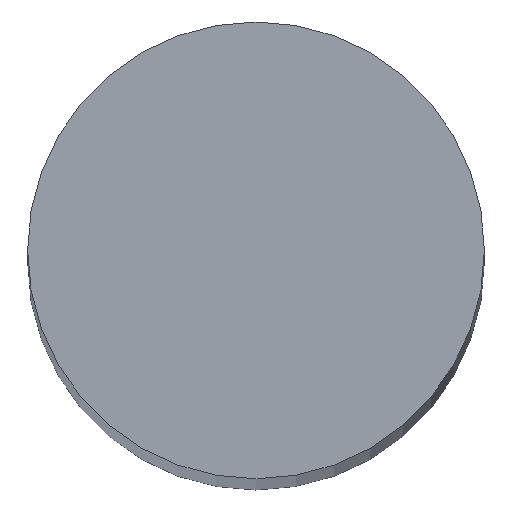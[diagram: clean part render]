
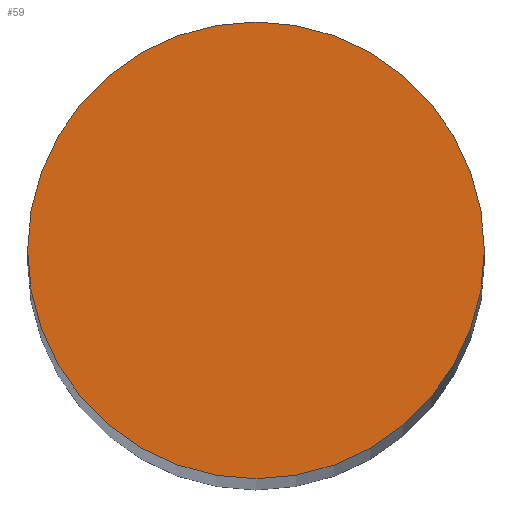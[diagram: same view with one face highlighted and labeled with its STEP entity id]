
A CAD part, top view. The second image highlights one B-rep face of the part: STEP entity #59.
In plain terms, the highlighted planar face has unit normal (0, 0, 1).
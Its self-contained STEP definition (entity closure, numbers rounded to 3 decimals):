
#24 = VERTEX_POINT('',#25);
#25 = CARTESIAN_POINT('',(4.,0.,112.65));
#31 = EDGE_CURVE('',#24,#24,#32,.T.);
#32 = CIRCLE('',#33,4.);
#33 = AXIS2_PLACEMENT_3D('',#34,#35,#36);
#34 = CARTESIAN_POINT('',(0.,0.,112.65));
#35 = DIRECTION('',(0.,0.,1.));
#36 = DIRECTION('',(1.,0.,0.));
#59 = ADVANCED_FACE('',(#60),#63,.T.);
#60 = FACE_BOUND('',#61,.T.);
#61 = EDGE_LOOP('',(#62));
#62 = ORIENTED_EDGE('',*,*,#31,.T.);
#63 = PLANE('',#64);
#64 = AXIS2_PLACEMENT_3D('',#65,#66,#67);
#65 = CARTESIAN_POINT('',(0.,0.,112.65)
  );
#66 = DIRECTION('',(0.,0.,1.));
#67 = DIRECTION('',(1.,0.,0.));
